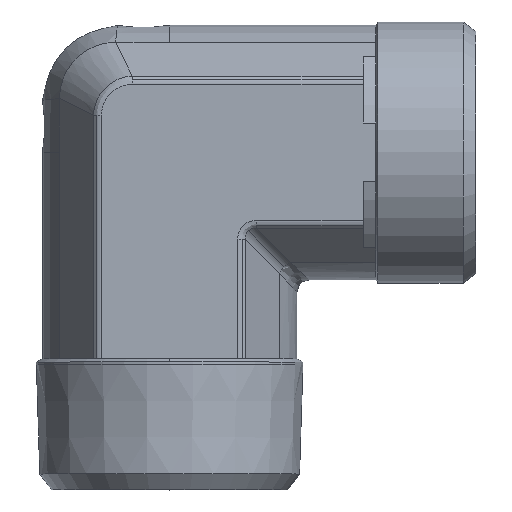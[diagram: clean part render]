
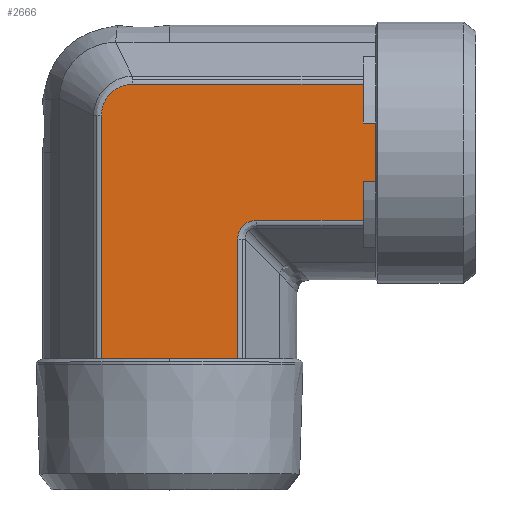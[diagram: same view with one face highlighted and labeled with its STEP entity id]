
A CAD part, top view. The second image highlights one B-rep face of the part: STEP entity #2666.
In plain terms, the highlighted planar face has unit normal (0, 0, 1) as drawn and (0, -1, 0) by its records, which use the part's own axes.
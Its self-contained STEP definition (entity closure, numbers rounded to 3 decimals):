
#361=CARTESIAN_POINT('',(9.429,-20.375,10.897));
#362=VERTEX_POINT('',#361);
#370=CARTESIAN_POINT('',(28.5,-20.375,10.897));
#371=VERTEX_POINT('',#370);
#372=CARTESIAN_POINT('',(9.429,-20.375,10.897));
#373=DIRECTION('',(1.0,0.0,0.0));
#374=VECTOR('',#373,19.071);
#375=LINE('',#372,#374);
#376=EDGE_CURVE('',#362,#371,#375,.T.);
#485=CARTESIAN_POINT('',(-15.397,-20.375,-5.976));
#486=VERTEX_POINT('',#485);
#494=CARTESIAN_POINT('',(-15.397,-20.375,31.));
#495=VERTEX_POINT('',#494);
#496=CARTESIAN_POINT('',(-15.397,-20.375,-5.976));
#497=DIRECTION('',(0.0,0.0,1.0));
#498=VECTOR('',#497,36.976);
#499=LINE('',#496,#498);
#500=EDGE_CURVE('',#486,#495,#499,.T.);
#711=CARTESIAN_POINT('',(28.5,-20.375,0.));
#712=VERTEX_POINT('',#711);
#2065=CARTESIAN_POINT('',(6.397,-20.375,31.));
#2066=VERTEX_POINT('',#2065);
#2067=CARTESIAN_POINT('',(0.2,-20.375,31.));
#2068=VERTEX_POINT('',#2067);
#2069=CARTESIAN_POINT('',(6.397,-20.375,31.));
#2070=DIRECTION('',(-1.0,0.0,0.0));
#2071=VECTOR('',#2070,6.198);
#2072=LINE('',#2069,#2071);
#2073=EDGE_CURVE('',#2066,#2068,#2072,.T.);
#2124=CARTESIAN_POINT('',(-9.2,-20.375,31.));
#2125=VERTEX_POINT('',#2124);
#2126=CARTESIAN_POINT('',(-9.2,-20.375,31.));
#2127=DIRECTION('',(-1.0,0.0,0.0));
#2128=VECTOR('',#2127,6.198);
#2129=LINE('',#2126,#2128);
#2130=EDGE_CURVE('',#2125,#495,#2129,.T.);
#2229=CARTESIAN_POINT('',(0.2,-20.375,33.0));
#2230=VERTEX_POINT('',#2229);
#2231=CARTESIAN_POINT('',(0.2,-20.375,31.));
#2232=DIRECTION('',(0.0,0.0,1.0));
#2233=VECTOR('',#2232,2.);
#2234=LINE('',#2231,#2233);
#2235=EDGE_CURVE('',#2068,#2230,#2234,.T.);
#2270=CARTESIAN_POINT('',(-9.2,-20.375,33.0));
#2271=VERTEX_POINT('',#2270);
#2272=CARTESIAN_POINT('',(-9.2,-20.375,33.0));
#2273=DIRECTION('',(0.0,0.0,-1.0));
#2274=VECTOR('',#2273,2.);
#2275=LINE('',#2272,#2274);
#2276=EDGE_CURVE('',#2271,#2125,#2275,.T.);
#2572=CARTESIAN_POINT('',(-4.5,-20.375,33.0));
#2573=VERTEX_POINT('',#2572);
#2574=CARTESIAN_POINT('',(-4.5,-20.375,33.0));
#2575=DIRECTION('',(-1.0,0.0,0.0));
#2576=VECTOR('',#2575,4.7);
#2577=LINE('',#2574,#2576);
#2578=EDGE_CURVE('',#2573,#2271,#2577,.T.);
#2596=CARTESIAN_POINT('',(-4.5,-20.375,-3.175));
#2597=DIRECTION('',(0.0,-1.0,0.0));
#2598=DIRECTION('',(0.0,0.0,-1.0));
#2599=AXIS2_PLACEMENT_3D('',#2596,#2597,#2598);
#2600=PLANE('',#2599);
#2601=ORIENTED_EDGE('',*,*,#2276,.T.);
#2602=ORIENTED_EDGE('',*,*,#2130,.T.);
#2603=ORIENTED_EDGE('',*,*,#500,.F.);
#2604=CARTESIAN_POINT('',(-10.476,-20.375,-10.897));
#2605=VERTEX_POINT('',#2604);
#2606=CARTESIAN_POINT('',(-15.397,-20.375,-5.976));
#2607=CARTESIAN_POINT('',(-15.397,-20.375,-6.296));
#2608=CARTESIAN_POINT('',(-15.365,-20.375,-6.619));
#2609=CARTESIAN_POINT('',(-15.2,-20.375,-7.443));
#2610=CARTESIAN_POINT('',(-15.019,-20.375,-7.929));
#2611=CARTESIAN_POINT('',(-14.359,-20.375,-9.1));
#2612=CARTESIAN_POINT('',(-13.773,-20.375,-9.713));
#2613=CARTESIAN_POINT('',(-12.293,-20.375,-10.637));
#2614=CARTESIAN_POINT('',(-11.385,-20.375,-10.897));
#2615=CARTESIAN_POINT('',(-10.476,-20.375,-10.897));
#2616=B_SPLINE_CURVE_WITH_KNOTS('',3,(#2606,#2607,#2608,#2609,#2610,#2611,#2612,#2613,#2614,#2615),.UNSPECIFIED.,.F.,.U.,(4,2,2,2,4),(-7.686,-6.725,-5.188,-2.729,0.0),.UNSPECIFIED.);
#2617=EDGE_CURVE('',#2605,#486,#2616,.F.);
#2618=ORIENTED_EDGE('',*,*,#2617,.F.);
#2619=CARTESIAN_POINT('',(28.5,-20.375,-10.897));
#2620=VERTEX_POINT('',#2619);
#2621=CARTESIAN_POINT('',(28.5,-20.375,-10.897));
#2622=DIRECTION('',(-1.0,0.0,0.0));
#2623=VECTOR('',#2622,38.976);
#2624=LINE('',#2621,#2623);
#2625=EDGE_CURVE('',#2620,#2605,#2624,.T.);
#2626=ORIENTED_EDGE('',*,*,#2625,.F.);
#2627=CARTESIAN_POINT('',(28.5,-20.375,-10.897));
#2628=DIRECTION('',(0.0,0.0,1.0));
#2629=VECTOR('',#2628,10.897);
#2630=LINE('',#2627,#2629);
#2631=EDGE_CURVE('',#2620,#712,#2630,.T.);
#2632=ORIENTED_EDGE('',*,*,#2631,.T.);
#2633=CARTESIAN_POINT('',(28.5,-20.375,0.));
#2634=DIRECTION('',(0.0,0.0,1.0));
#2635=VECTOR('',#2634,10.897);
#2636=LINE('',#2633,#2635);
#2637=EDGE_CURVE('',#712,#371,#2636,.T.);
#2638=ORIENTED_EDGE('',*,*,#2637,.T.);
#2639=ORIENTED_EDGE('',*,*,#376,.F.);
#2640=CARTESIAN_POINT('',(6.397,-20.375,13.929));
#2641=VERTEX_POINT('',#2640);
#2642=CARTESIAN_POINT('',(10.439,-20.375,14.939));
#2643=DIRECTION('',(0.,-1.,0.));
#2644=DIRECTION('',(-0.707,0.,-0.707));
#2645=AXIS2_PLACEMENT_3D('',#2642,#2643,#2644);
#2646=ELLIPSE('',#2645,4.518,3.5);
#2647=EDGE_CURVE('',#2641,#362,#2646,.T.);
#2648=ORIENTED_EDGE('',*,*,#2647,.F.);
#2649=CARTESIAN_POINT('',(6.397,-20.375,31.));
#2650=DIRECTION('',(0.0,0.0,-1.0));
#2651=VECTOR('',#2650,17.071);
#2652=LINE('',#2649,#2651);
#2653=EDGE_CURVE('',#2066,#2641,#2652,.T.);
#2654=ORIENTED_EDGE('',*,*,#2653,.F.);
#2655=ORIENTED_EDGE('',*,*,#2073,.T.);
#2656=ORIENTED_EDGE('',*,*,#2235,.T.);
#2657=CARTESIAN_POINT('',(0.2,-20.375,33.0));
#2658=DIRECTION('',(-1.0,0.0,0.0));
#2659=VECTOR('',#2658,4.7);
#2660=LINE('',#2657,#2659);
#2661=EDGE_CURVE('',#2230,#2573,#2660,.T.);
#2662=ORIENTED_EDGE('',*,*,#2661,.T.);
#2663=ORIENTED_EDGE('',*,*,#2578,.T.);
#2664=EDGE_LOOP('',(#2601,#2602,#2603,#2618,#2626,#2632,#2638,#2639,#2648,#2654,#2655,#2656,#2662,#2663));
#2665=FACE_OUTER_BOUND('',#2664,.T.);
#2666=ADVANCED_FACE('',(#2665),#2600,.T.);
